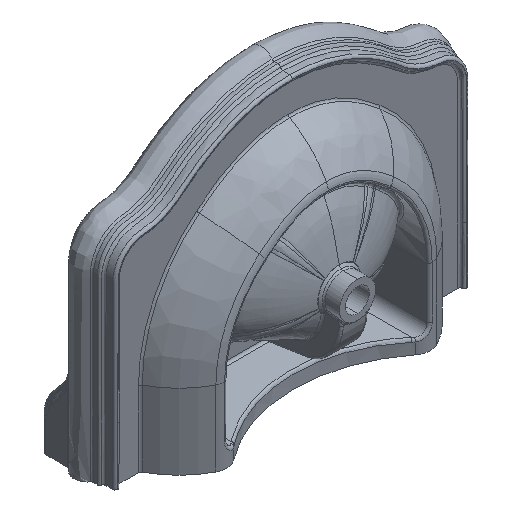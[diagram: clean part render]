
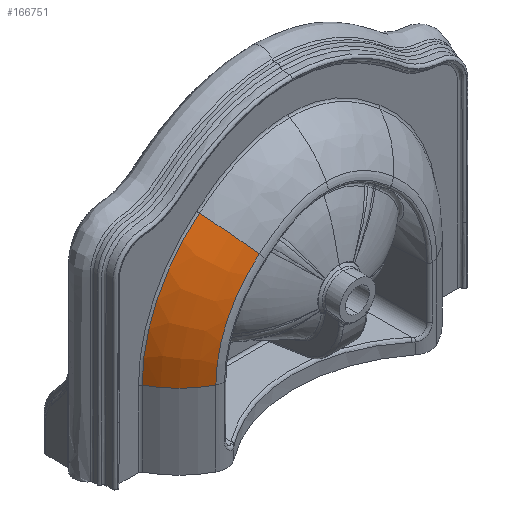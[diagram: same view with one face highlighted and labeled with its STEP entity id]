
A CAD part, isometric view. The second image highlights one B-rep face of the part: STEP entity #166751.
In plain terms, the highlighted toroidal (fillet/blend) face has major radius 148.53 mm and minor radius 170 mm.
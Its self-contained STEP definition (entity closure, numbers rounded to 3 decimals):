
#536 = CARTESIAN_POINT ( 'NONE',  ( 15.65, 3.18, -65.397 ) ) ;
#2068 = DIRECTION ( 'NONE',  ( -1., 0., 0. ) ) ;
#4428 = CARTESIAN_POINT ( 'NONE',  ( -282.969, -76.652, -65.397 ) ) ;
#4529 = CARTESIAN_POINT ( 'NONE',  ( -132.879, 3.18, -65.397 ) ) ;
#9198 = ORIENTED_EDGE ( 'NONE', *, *, #27433, .F. ) ;
#14864 = ORIENTED_EDGE ( 'NONE', *, *, #21973, .T. ) ;
#21973 = EDGE_CURVE ( 'NONE', #97750, #33324, #66979, .T. ) ;
#27433 = EDGE_CURVE ( 'NONE', #62881, #30057, #190889, .T. ) ;
#30057 = VERTEX_POINT ( 'NONE', #53080 ) ;
#32758 = CIRCLE ( 'NONE', #51288, 298.619 ) ;
#33324 = VERTEX_POINT ( 'NONE', #113679 ) ;
#33425 = DIRECTION ( 'NONE',  ( 0., 0., 1. ) ) ;
#37521 = EDGE_CURVE ( 'NONE', #33324, #30057, #148872, .T. ) ;
#51288 = AXIS2_PLACEMENT_3D ( 'NONE', #181360, #90292, #2068 ) ;
#53080 = CARTESIAN_POINT ( 'NONE',  ( -128.379, -147.278, 110.918 ) ) ;
#60906 = DIRECTION ( 'NONE',  ( 0., 0., 1. ) ) ;
#62881 = VERTEX_POINT ( 'NONE', #99098 ) ;
#66979 = CIRCLE ( 'NONE', #175236, 170. ) ;
#70938 = DIRECTION ( 'NONE',  ( 0.774, 0., 0.633 ) ) ;
#75597 = EDGE_LOOP ( 'NONE', ( #9198, #79376, #14864, #154003 ) ) ;
#79376 = ORIENTED_EDGE ( 'NONE', *, *, #119027, .T. ) ;
#86447 = DIRECTION ( 'NONE',  ( 0.633, 0., -0.774 ) ) ;
#90292 = DIRECTION ( 'NONE',  ( 0., -1., 0. ) ) ;
#90669 = DIRECTION ( 'NONE',  ( 0., 1., 0. ) ) ;
#92556 = FACE_OUTER_BOUND ( 'NONE', #75597, .T. ) ;
#97750 = VERTEX_POINT ( 'NONE', #4428 ) ;
#99098 = CARTESIAN_POINT ( 'NONE',  ( -173.267, -76.652, 165.868 ) ) ;
#107272 = AXIS2_PLACEMENT_3D ( 'NONE', #114571, #70938, #86447 ) ;
#107386 = DIRECTION ( 'NONE',  ( 0., 1., 0. ) ) ;
#108558 = AXIS2_PLACEMENT_3D ( 'NONE', #182969, #107386, #60906 ) ;
#113679 = CARTESIAN_POINT ( 'NONE',  ( -212.015, -147.278, -65.397 ) ) ;
#114571 = CARTESIAN_POINT ( 'NONE',  ( -78.315, 3.18, 49.631 ) ) ;
#119027 = EDGE_CURVE ( 'NONE', #62881, #97750, #32758, .T. ) ;
#139270 = DIRECTION ( 'NONE',  ( 0., 0., 1. ) ) ;
#148872 = CIRCLE ( 'NONE', #108558, 227.665 ) ;
#152850 = DIRECTION ( 'NONE',  ( 1., 0., 0. ) ) ;
#154003 = ORIENTED_EDGE ( 'NONE', *, *, #37521, .T. ) ;
#166751 = ADVANCED_FACE ( 'NONE', ( #92556 ), #181273, .T. ) ;
#175236 = AXIS2_PLACEMENT_3D ( 'NONE', #4529, #139270, #152850 ) ;
#181273 = TOROIDAL_SURFACE ( 'NONE', #187495, 148.529, 170. ) ;
#181360 = CARTESIAN_POINT ( 'NONE',  ( 15.65, -76.652, -65.397 ) ) ;
#182969 = CARTESIAN_POINT ( 'NONE',  ( 15.65, -147.278, -65.397 ) ) ;
#187495 = AXIS2_PLACEMENT_3D ( 'NONE', #536, #90669, #33425 ) ;
#190889 = CIRCLE ( 'NONE', #107272, 170. ) ;
